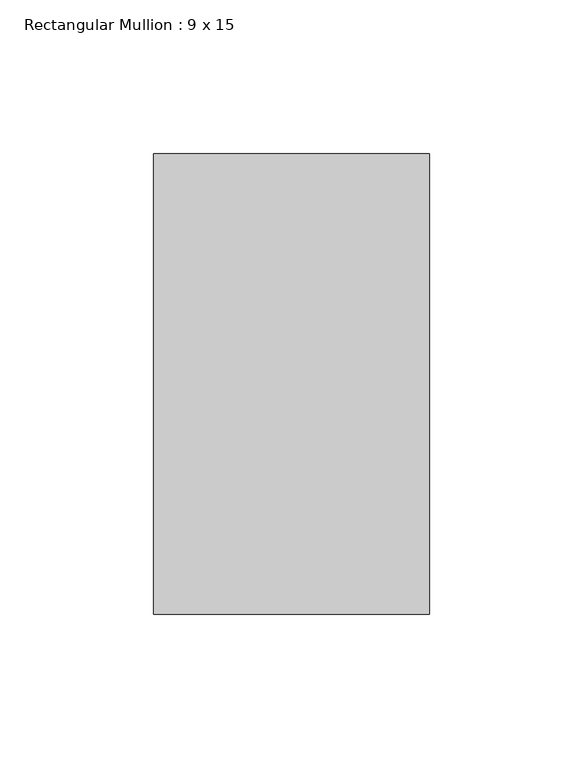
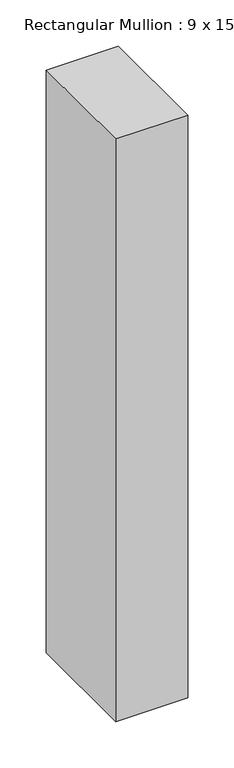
"""IFC4 building model written with IfcOpenShell, lengths in millimetres: member geometry, Rectangular Mullion : 9 x 15."""

from ifc_helpers import new_model, si_unit, frame, origin, place, context, project, spatial, polyline, outline, extrude, source, transform, mapped, element, save


def rectangular_mullion_9_x_15_9cd6746d(model_context):
    return source(origin(), model_context, "Body", "SweptSolid", [
        extrude(outline(polyline([(45.0, 75.0), (45.0, -75.0), (-45.0, -75.0), (-45.0, 75.0), (45.0, 75.0)])), frame((0.0, 0.0, -770.0361668), z_axis=(0.0, 0.0, 1.0), x_axis=(1.0, 0.0, 0.0)), (0.0, 0.0, 1.0), 770.0361668),
    ])


if __name__ == "__main__":
    model = new_model("IFC4")
    model_context = context("Model", 3, world=origin())
    ifc_project = project(units=[si_unit("LENGTHUNIT", "METRE", prefix="MILLI")], contexts=[model_context])
    site = spatial("IfcSite", under=ifc_project)
    building = spatial("IfcBuilding", under=site)
    placement = place(None, origin())
    rectangular_mullion_9_x_15_shape = rectangular_mullion_9_x_15_9cd6746d(model_context)
    element("IfcMember", 1, ObjectType="Rectangular Mullion : 9 x 15", at=placement, inside=building, context=model_context, shape_type="MappedRepresentation", body=[
        mapped(rectangular_mullion_9_x_15_shape, transform((0.0, 0.0, 0.0), x_axis=(1.0, 0.0, 0.0), y_axis=(0.0, 1.0, 0.0), z_axis=(0.0, 0.0, 1.0))),
    ])
    save(model, "model.ifc")
